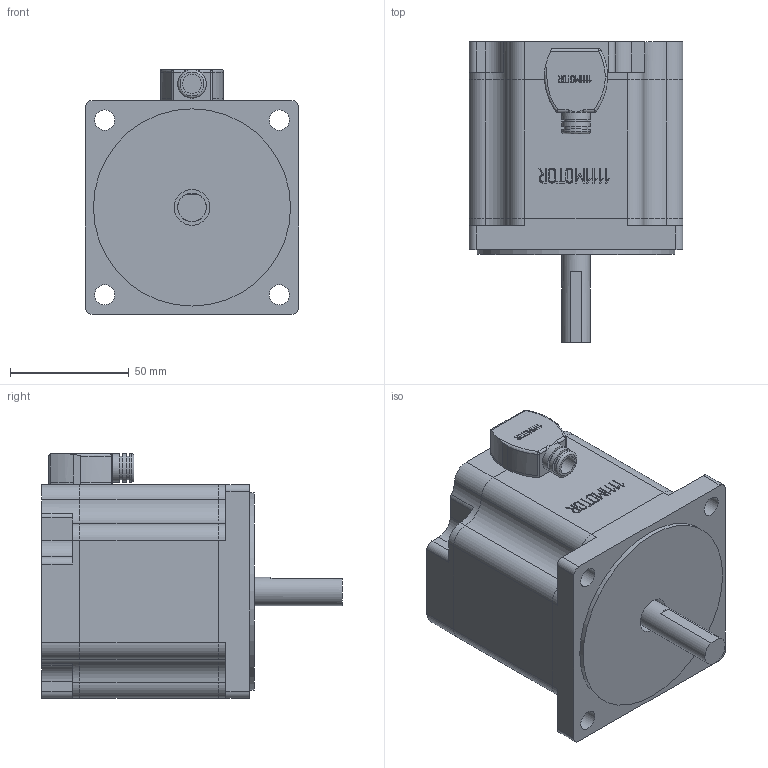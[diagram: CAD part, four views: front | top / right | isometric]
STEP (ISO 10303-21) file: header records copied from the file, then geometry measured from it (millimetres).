
FILE_DESCRIPTION(/* description */ ('Unknown'),/* implementation_level */ '2;1');
FILE_NAME(/* name */ 'BL90M',/* time_stamp */ '2020-12-29T11:22:12+08:00',/* author */ ('Unknown'),/* organization */ ('Unknown'),/* preprocessor_version */ 'ST-DEVELOPER v16.7',/* originating_system */ 'DEX',/* authorisation */ $);
FILE_SCHEMA (('AUTOMOTIVE_DESIGN {1 0 10303 214 3 1 1}'));
Length unit declared in the file: millimetre
Products named in the file (6): BL90M; BL90前0; BL90後4; BL90禸歌姱; BL90«OÅ@ÝOw‹Ë„; BL90M诀
Assembly tree (5 placements, depth 2):
  BL90M
    BL90前0
    BL90後4
    BL90禸歌姱
    BL90«OÅ@ÝOw‹Ë„
    BL90M诀
Bounding box: 90 x 126.5 x 103 mm (x, y, z)
Volume: 325213.1 mm3; surface area: 90313.7 mm2
Topology: 5 solids, 5 shells, 320 faces, 840 edges, 557 vertices
Faces by surface type: plane 196, cylinder 93, bspline 27, sphere 3, torus 1
Full cylindrical faces by diameter (mm): 2.459 x6, 3.242 x4, 8 x1, 8.5 x4, 10 x2, 12 x4, 15 x1, 20.8 x1, 30 x1, 80 x2, 83 x1
Entity records: 12954 total; most frequent: CARTESIAN_POINT 2961, ORIENTED_EDGE 1562, DIRECTION 1518, EDGE_CURVE 781, VERTEX_POINT 539, LINE 536, VECTOR 536, AXIS2_PLACEMENT_3D 491
